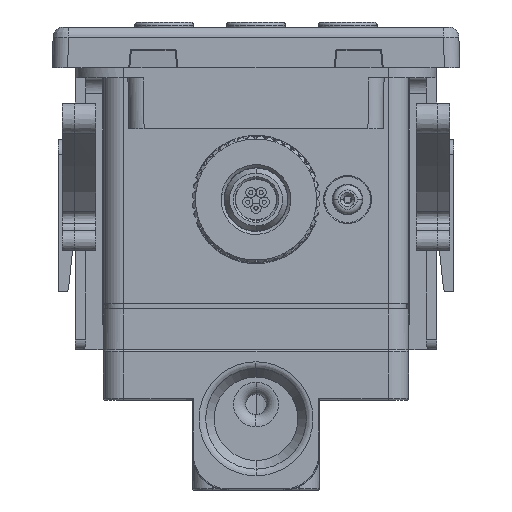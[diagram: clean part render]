
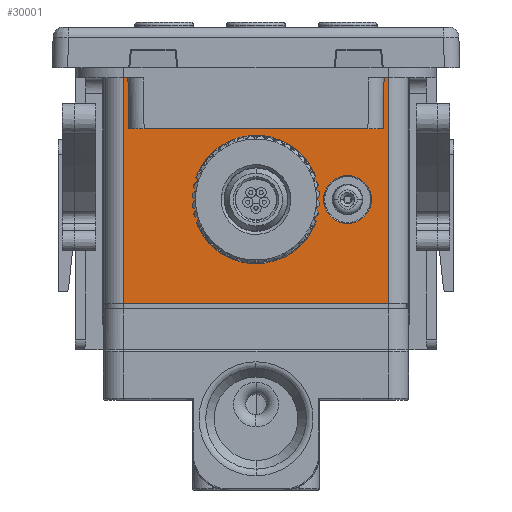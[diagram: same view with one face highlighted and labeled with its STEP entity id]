
A CAD part, front view. The second image highlights one B-rep face of the part: STEP entity #30001.
In plain terms, the highlighted planar face has unit normal (0, -1, 0).
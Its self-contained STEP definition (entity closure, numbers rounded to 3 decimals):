
#3234=DIRECTION('',(1.,0.,0.));
#3235=VECTOR('',#3234,26.);
#3236=CARTESIAN_POINT('',(-13.,-15.,4.5));
#3237=LINE('',#3236,#3235);
#3238=DIRECTION('',(0.,0.,-1.));
#3239=VECTOR('',#3238,25.2);
#3240=CARTESIAN_POINT('',(-13.,-15.,29.7));
#3241=LINE('',#3240,#3239);
#3242=DIRECTION('',(1.,0.,0.));
#3243=VECTOR('',#3242,26.);
#3244=CARTESIAN_POINT('',(-13.,-15.,29.7));
#3245=LINE('',#3244,#3243);
#3246=DIRECTION('',(0.,0.,-1.));
#3247=VECTOR('',#3246,25.2);
#3248=CARTESIAN_POINT('',(13.,-15.,29.7));
#3249=LINE('',#3248,#3247);
#3250=CARTESIAN_POINT('',(0.,-15.,14.75));
#3251=DIRECTION('',(0.,-1.,0.));
#3252=DIRECTION('',(-0.898,0.,-0.44));
#3253=AXIS2_PLACEMENT_3D('',#3250,#3251,#3252);
#3255=DIRECTION('',(-0.017,0.,-1.));
#3256=VECTOR('',#3255,2.35);
#3257=CARTESIAN_POINT('',(5.8,-15.,14.75));
#3258=LINE('',#3257,#3256);
#3259=DIRECTION('',(0.017,0.,-1.));
#3260=VECTOR('',#3259,2.35);
#3261=CARTESIAN_POINT('',(5.759,-15.,17.1));
#3262=LINE('',#3261,#3260);
#3263=CARTESIAN_POINT('',(0.,-15.,14.75));
#3264=DIRECTION('',(0.,-1.,0.));
#3265=DIRECTION('',(0.898,0.,0.44));
#3266=AXIS2_PLACEMENT_3D('',#3263,#3264,#3265);
#3268=DIRECTION('',(0.017,0.,1.));
#3269=VECTOR('',#3268,2.35);
#3270=CARTESIAN_POINT('',(-5.8,-15.,14.75));
#3271=LINE('',#3270,#3269);
#3272=DIRECTION('',(-0.017,0.,1.));
#3273=VECTOR('',#3272,2.35);
#3274=CARTESIAN_POINT('',(-5.759,-15.,12.4));
#3275=LINE('',#3274,#3273);
#3276=CARTESIAN_POINT('',(9.,-15.,14.75));
#3277=DIRECTION('',(0.,1.,0.));
#3278=DIRECTION('',(-1.,0.,0.));
#3279=AXIS2_PLACEMENT_3D('',#3276,#3277,#3278);
#3281=CARTESIAN_POINT('',(9.,-15.,14.75));
#3282=DIRECTION('',(0.,1.,0.));
#3283=DIRECTION('',(1.,0.,0.));
#3284=AXIS2_PLACEMENT_3D('',#3281,#3282,#3283);
#15564=CARTESIAN_POINT('',(-4.759,-15.,17.083));
#15565=DIRECTION('',(0.,1.,0.));
#15566=DIRECTION('',(-1.,0.,0.017));
#15567=AXIS2_PLACEMENT_3D('',#15564,#15565,#15566);
#16326=CARTESIAN_POINT('',(4.759,-15.,17.083));
#16327=DIRECTION('',(0.,1.,0.));
#16328=DIRECTION('',(0.898,0.,0.44));
#16329=AXIS2_PLACEMENT_3D('',#16326,#16327,#16328);
#16380=CARTESIAN_POINT('',(4.759,-15.,12.417));
#16381=DIRECTION('',(0.,1.,0.));
#16382=DIRECTION('',(1.,0.,-0.017));
#16383=AXIS2_PLACEMENT_3D('',#16380,#16381,#16382);
#19626=CARTESIAN_POINT('',(-4.759,-15.,12.417));
#19627=DIRECTION('',(0.,1.,0.));
#19628=DIRECTION('',(-0.898,0.,-0.44));
#19629=AXIS2_PLACEMENT_3D('',#19626,#19627,#19628);
#22122=CARTESIAN_POINT('',(-13.,-15.,4.5));
#22123=CARTESIAN_POINT('',(13.,-15.,4.5));
#22124=VERTEX_POINT('',#22122);
#22125=VERTEX_POINT('',#22123);
#22146=CARTESIAN_POINT('',(13.,-15.,29.7));
#22147=VERTEX_POINT('',#22146);
#22152=CARTESIAN_POINT('',(-13.,-15.,29.7));
#22153=VERTEX_POINT('',#22152);
#22238=CARTESIAN_POINT('',(6.646,-15.,14.75));
#22239=CARTESIAN_POINT('',(11.354,-15.,14.75));
#22240=VERTEX_POINT('',#22238);
#22241=VERTEX_POINT('',#22239);
#22432=CARTESIAN_POINT('',(5.8,-15.,14.75));
#22433=VERTEX_POINT('',#22432);
#22443=CARTESIAN_POINT('',(5.759,-15.,17.1));
#22444=VERTEX_POINT('',#22443);
#22445=CARTESIAN_POINT('',(5.759,-15.,12.4));
#22446=VERTEX_POINT('',#22445);
#22447=CARTESIAN_POINT('',(5.657,-15.,17.523));
#22448=VERTEX_POINT('',#22447);
#22449=CARTESIAN_POINT('',(5.657,-15.,11.977));
#22450=VERTEX_POINT('',#22449);
#22458=CARTESIAN_POINT('',(-5.657,-15.,17.523));
#22459=VERTEX_POINT('',#22458);
#22460=CARTESIAN_POINT('',(-5.657,-15.,11.977));
#22461=VERTEX_POINT('',#22460);
#22472=CARTESIAN_POINT('',(-5.759,-15.,12.4));
#22473=CARTESIAN_POINT('',(-5.8,-15.,14.75));
#22474=VERTEX_POINT('',#22472);
#22475=VERTEX_POINT('',#22473);
#22476=CARTESIAN_POINT('',(-5.759,-15.,17.1));
#22477=VERTEX_POINT('',#22476);
#29960=CARTESIAN_POINT('',(-15.,-15.,2.9));
#29961=DIRECTION('',(0.,-1.,0.));
#29962=DIRECTION('',(1.,0.,0.));
#29963=AXIS2_PLACEMENT_3D('',#29960,#29961,#29962);
#29964=PLANE('',#29963);
#29965=ORIENTED_EDGE('',*,*,#28653,.F.);
#29967=ORIENTED_EDGE('',*,*,#29966,.F.);
#29969=ORIENTED_EDGE('',*,*,#29968,.T.);
#29970=ORIENTED_EDGE('',*,*,#29952,.T.);
#29971=EDGE_LOOP('',(#29965,#29967,#29969,#29970));
#29972=FACE_OUTER_BOUND('',#29971,.F.);
#29974=ORIENTED_EDGE('',*,*,#29973,.T.);
#29976=ORIENTED_EDGE('',*,*,#29975,.F.);
#29978=ORIENTED_EDGE('',*,*,#29977,.F.);
#29980=ORIENTED_EDGE('',*,*,#29979,.F.);
#29982=ORIENTED_EDGE('',*,*,#29981,.F.);
#29984=ORIENTED_EDGE('',*,*,#29983,.T.);
#29986=ORIENTED_EDGE('',*,*,#29985,.F.);
#29988=ORIENTED_EDGE('',*,*,#29987,.F.);
#29990=ORIENTED_EDGE('',*,*,#29989,.F.);
#29992=ORIENTED_EDGE('',*,*,#29991,.F.);
#29993=EDGE_LOOP('',(#29974,#29976,#29978,#29980,#29982,#29984,#29986,#29988,
#29990,#29992));
#29994=FACE_BOUND('',#29993,.F.);
#29996=ORIENTED_EDGE('',*,*,#29995,.F.);
#29998=ORIENTED_EDGE('',*,*,#29997,.F.);
#29999=EDGE_LOOP('',(#29996,#29998));
#30000=FACE_BOUND('',#29999,.F.);
#30001=ADVANCED_FACE('',(#29972,#29994,#30000),#29964,.T.);
#3254=CIRCLE('',#3253,6.3);
#3267=CIRCLE('',#3266,6.3);
#3280=CIRCLE('',#3279,2.354);
#3285=CIRCLE('',#3284,2.354);
#15568=CIRCLE('',#15567,1.);
#16330=CIRCLE('',#16329,1.);
#16384=CIRCLE('',#16383,1.);
#19630=CIRCLE('',#19629,1.);
#28653=EDGE_CURVE('',#22124,#22125,#3237,.T.);
#29952=EDGE_CURVE('',#22147,#22125,#3249,.T.);
#29966=EDGE_CURVE('',#22153,#22124,#3241,.T.);
#29968=EDGE_CURVE('',#22153,#22147,#3245,.T.);
#29973=EDGE_CURVE('',#22461,#22450,#3254,.T.);
#29975=EDGE_CURVE('',#22446,#22450,#16384,.T.);
#29977=EDGE_CURVE('',#22433,#22446,#3258,.T.);
#29979=EDGE_CURVE('',#22444,#22433,#3262,.T.);
#29981=EDGE_CURVE('',#22448,#22444,#16330,.T.);
#29983=EDGE_CURVE('',#22448,#22459,#3267,.T.);
#29985=EDGE_CURVE('',#22477,#22459,#15568,.T.);
#29987=EDGE_CURVE('',#22475,#22477,#3271,.T.);
#29989=EDGE_CURVE('',#22474,#22475,#3275,.T.);
#29991=EDGE_CURVE('',#22461,#22474,#19630,.T.);
#29995=EDGE_CURVE('',#22240,#22241,#3280,.T.);
#29997=EDGE_CURVE('',#22241,#22240,#3285,.T.);
